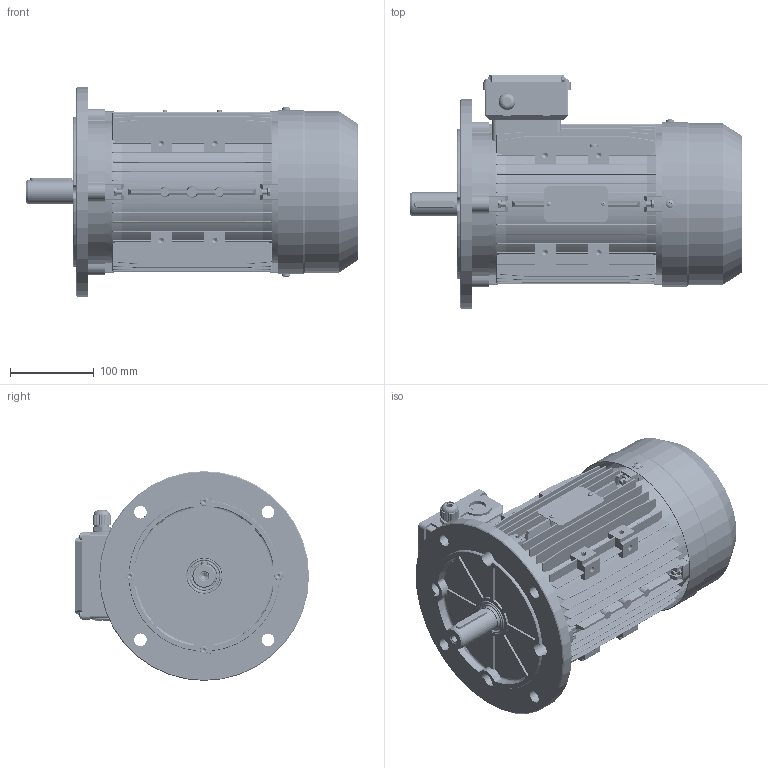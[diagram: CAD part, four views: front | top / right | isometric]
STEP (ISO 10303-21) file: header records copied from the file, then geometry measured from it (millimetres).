
FILE_DESCRIPTION (( 'STEP AP203' ), '1' );
FILE_NAME ('JM 100 B5 IE1-IE2.STEP', '2025-07-22T07:20:10', ( '' ), ( '' ), 'SwSTEP 2.0', 'SolidWorks 2025', '' );
FILE_SCHEMA (( 'CONFIG_CONTROL_DESIGN' ));
Length unit declared in the file: millimetre
Products named in the file (4): Flangia JM 100 B5; Corpo motore JM 100; JM 100 B5 IE1-IE2; Tappo M25
Assembly tree (3 placements, depth 2):
  JM 100 B5 IE1-IE2
    Corpo motore JM 100
    Tappo M25
    Flangia JM 100 B5
Bounding box: 395.7 x 279 x 250 mm (x, y, z)
Volume: 4597171.3 mm3; surface area: 1579908.5 mm2
Topology: 85 solids, 85 shells, 6359 faces, 17034 edges, 10934 vertices
Faces by surface type: plane 3180, cylinder 2015, cone 418, torus 352, sphere 252, bspline 142
Entity records: 230097 total; most frequent: CARTESIAN_POINT 71068, ORIENTED_EDGE 33664, DIRECTION 32465, EDGE_CURVE 16832, AXIS2_PLACEMENT_3D 11416, VERTEX_POINT 10900, LINE 9633, VECTOR 9633
